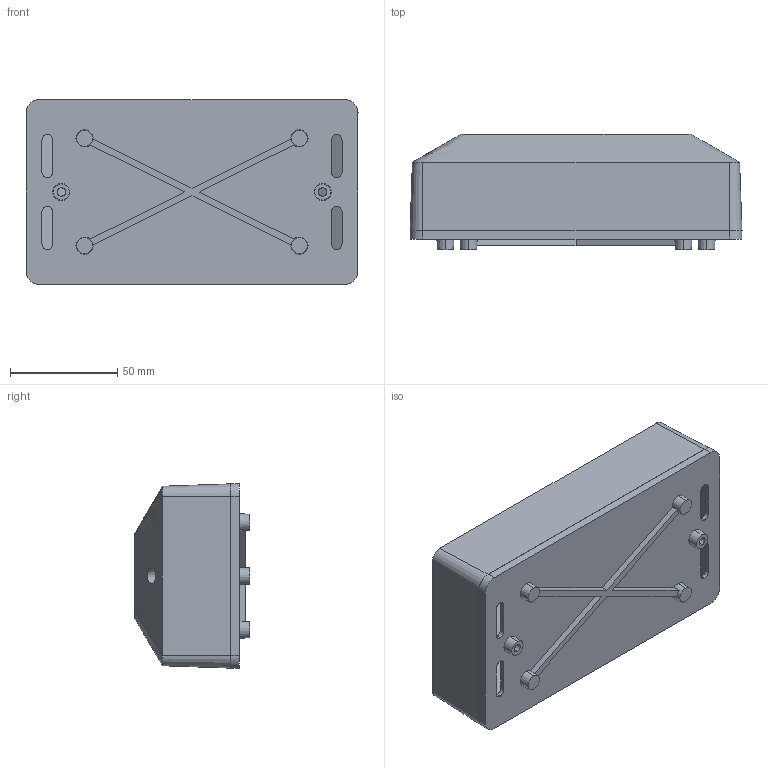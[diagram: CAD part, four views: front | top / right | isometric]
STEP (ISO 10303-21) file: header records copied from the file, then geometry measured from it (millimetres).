
FILE_DESCRIPTION (( 'STEP AP203' ), '1' );
FILE_NAME ('DM-010-T.STEP', '2021-10-05T11:04:07', ( '' ), ( '' ), 'SwSTEP 2.0', 'SolidWorks 2021', '' );
FILE_SCHEMA (( 'CONFIG_CONTROL_DESIGN' ));
Length unit declared in the file: millimetre
Products named in the file (3): DM-010-P-2-G-0; DM-010-P-1-G-0; DM-010-T
Assembly tree (2 placements, depth 2):
  DM-010-T
    DM-010-P-2-G-0
    DM-010-P-1-G-0
Bounding box: 154.55 x 53.75 x 86 mm (x, y, z)
Volume: 130987.2 mm3; surface area: 94933.7 mm2
Topology: 2 solids, 2 shells, 218 faces, 516 edges, 342 vertices
Faces by surface type: plane 92, cylinder 60, cone 60, bspline 6
Entity records: 11097 total; most frequent: CARTESIAN_POINT 5591, DIRECTION 1132, ORIENTED_EDGE 1032, EDGE_CURVE 516, AXIS2_PLACEMENT_3D 445, VERTEX_POINT 342, EDGE_LOOP 274, LINE 242
